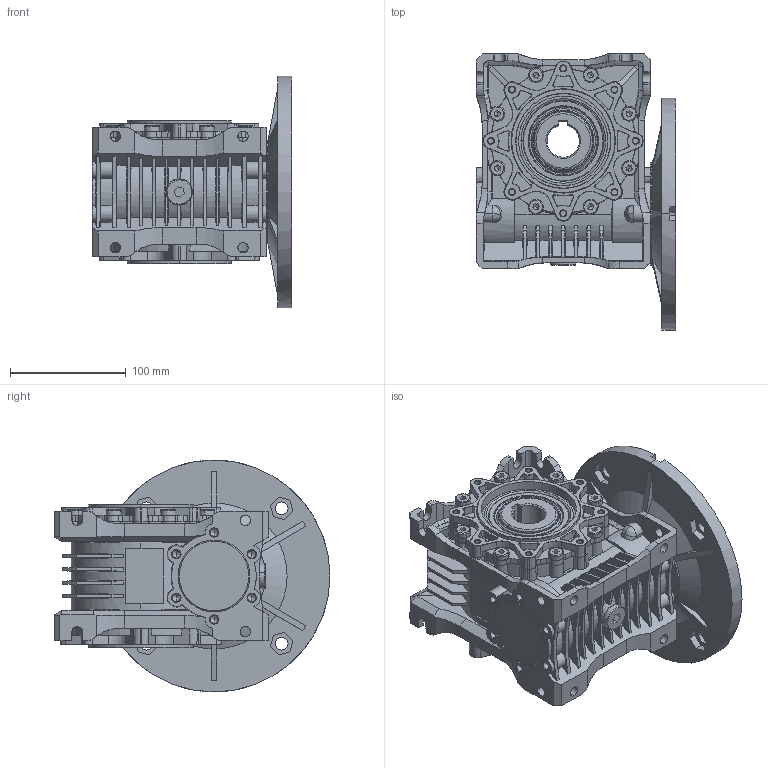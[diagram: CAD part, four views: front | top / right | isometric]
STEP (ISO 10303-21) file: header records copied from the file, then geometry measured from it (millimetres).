
FILE_DESCRIPTION (( 'STEP AP203' ), '1' );
FILE_NAME ('MR-63_200-19_3D.STEP', '2023-09-26T10:47:29', ( '' ), ( '' ), 'SwSTEP 2.0', 'SolidWorks 2022', '' );
FILE_SCHEMA (( 'CONFIG_CONTROL_DESIGN' ));
Length unit declared in the file: millimetre
Products named in the file (1): MR-63_200-19_3D
Bounding box: 172 x 238 x 200 mm (x, y, z)
Volume: 2153708.5 mm3; surface area: 357858 mm2
Topology: 1 solids, 34 shells, 2730 faces, 7025 edges, 4406 vertices
Faces by surface type: plane 1099, cone 718, cylinder 543, torus 202, bspline 130, sphere 38
Entity records: 87596 total; most frequent: CARTESIAN_POINT 22755, ORIENTED_EDGE 13882, DIRECTION 13428, EDGE_CURVE 6941, AXIS2_PLACEMENT_3D 5037, VERTEX_POINT 4406, VECTOR 3354, LINE 3354
